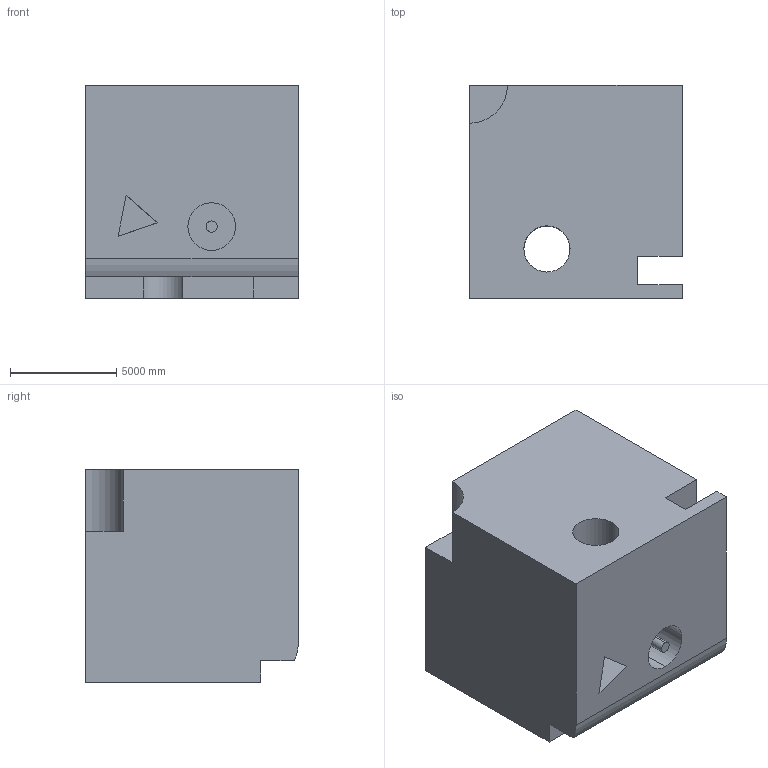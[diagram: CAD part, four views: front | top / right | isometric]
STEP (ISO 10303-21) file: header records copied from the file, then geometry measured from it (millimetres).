
FILE_DESCRIPTION (( 'STEP AP203' ), '1' );
FILE_NAME ('939.STEP', '2022-07-29T14:30:07', ( 'user' ), ( '' ), 'SwSTEP 2.0', 'SolidWorks 2021', '' );
FILE_SCHEMA (( 'CONFIG_CONTROL_DESIGN' ));
Length unit declared in the file: centimetre
Products named in the file (1): 939
Bounding box: 10000 x 10000 x 10000 mm (x, y, z)
Volume: 832906345351.8 mm3; surface area: 825281013.5 mm2
Topology: 1 solids, 1 shells, 44 faces, 120 edges, 80 vertices
Faces by surface type: plane 26, cylinder 18
Entity records: 1487 total; most frequent: CARTESIAN_POINT 263, ORIENTED_EDGE 240, DIRECTION 240, EDGE_CURVE 120, AXIS2_PLACEMENT_3D 81, VERTEX_POINT 80, VECTOR 78, LINE 78
